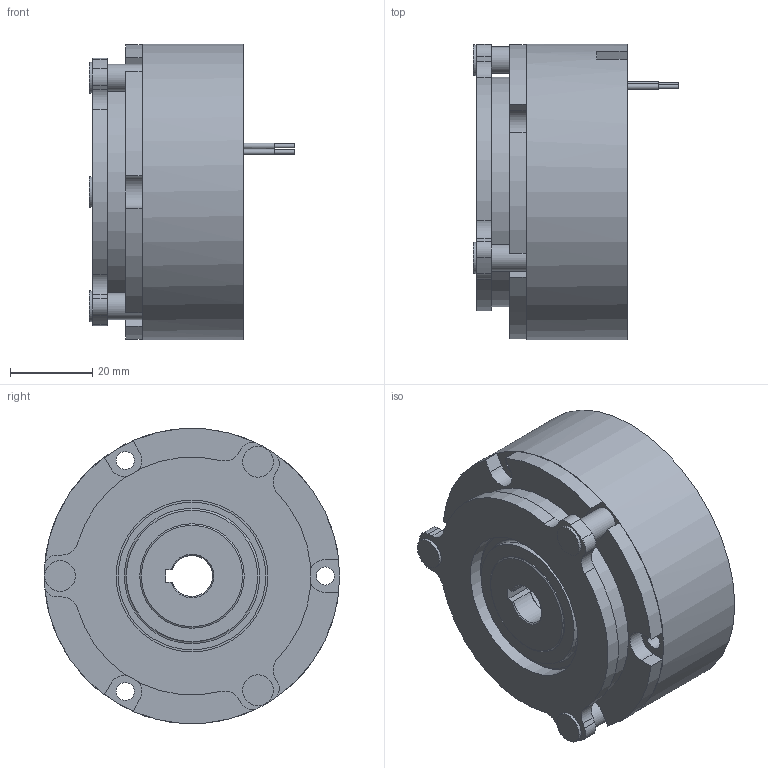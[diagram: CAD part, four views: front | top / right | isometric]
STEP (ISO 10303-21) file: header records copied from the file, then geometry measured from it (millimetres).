
FILE_DESCRIPTION (( 'STEP AP214' ), '1' );
FILE_NAME ('KS_10107A00_Customer_3D_model_19.12.17.STEP', '2020-03-24T06:42:42', ( '' ), ( '' ), 'SwSTEP 2.0', 'SolidWorks 2018', '' );
FILE_SCHEMA (( 'AUTOMOTIVE_DESIGN' ));
Length unit declared in the file: millimetre
Products named in the file (1): KS_10107A00_Customer_3D_model_19.12.17
Bounding box: 50.1 x 72 x 72 mm (x, y, z)
Volume: 124564.5 mm3; surface area: 28479.7 mm2
Topology: 1 solids, 1 shells, 111 faces, 268 edges, 179 vertices
Faces by surface type: cylinder 57, plane 46, cone 5, torus 2, bspline 1
Full cylindrical faces by diameter (mm): 1 x2, 1.4 x2, 3.3 x3, 4.4 x3, 6.5 x3, 7.53 x3, 19 x2, 25 x1, 25.448 x1, 32 x1, 36 x1, 37 x1, 56 x1, 72 x1
Entity records: 3188 total; most frequent: DIRECTION 570, CARTESIAN_POINT 551, ORIENTED_EDGE 458, AXIS2_PLACEMENT_3D 234, EDGE_CURVE 229, EDGE_LOOP 176, VERTEX_POINT 171, FACE_OUTER_BOUND 139
